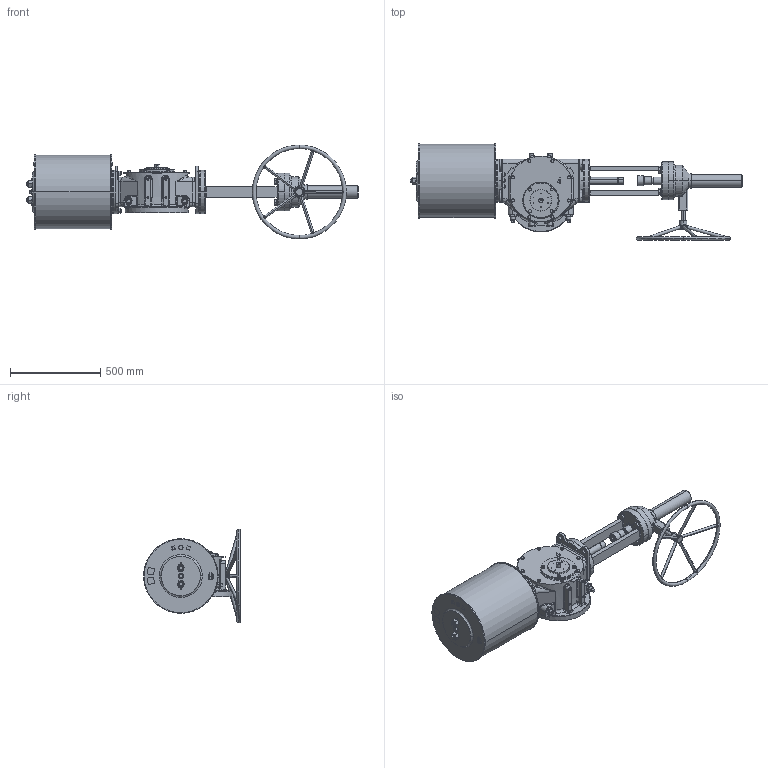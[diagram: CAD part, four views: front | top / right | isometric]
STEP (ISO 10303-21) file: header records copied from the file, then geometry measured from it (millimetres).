
FILE_DESCRIPTION (( 'STEP AP203' ), '1' );
FILE_NAME ('VTS4-400-MGD.STEP', '2023-01-01T09:33:23', ( '' ), ( '' ), 'SwSTEP 2.0', 'SolidWorks 2020', '' );
FILE_SCHEMA (( 'CONFIG_CONTROL_DESIGN' ));
Length unit declared in the file: millimetre
Products named in the file (1): VTS4-400-MGD
Bounding box: 1838.5 x 536.5 x 520 mm (x, y, z)
Volume: 94231653.6 mm3; surface area: 2636149.2 mm2
Topology: 3 solids, 20 shells, 2410 faces, 6074 edges, 3791 vertices
Faces by surface type: plane 1045, cylinder 789, cone 416, bspline 126, torus 34
Entity records: 89609 total; most frequent: CARTESIAN_POINT 32403, DIRECTION 12033, ORIENTED_EDGE 11956, EDGE_CURVE 5978, AXIS2_PLACEMENT_3D 4687, VERTEX_POINT 3791, EDGE_LOOP 2729, LINE 2659
